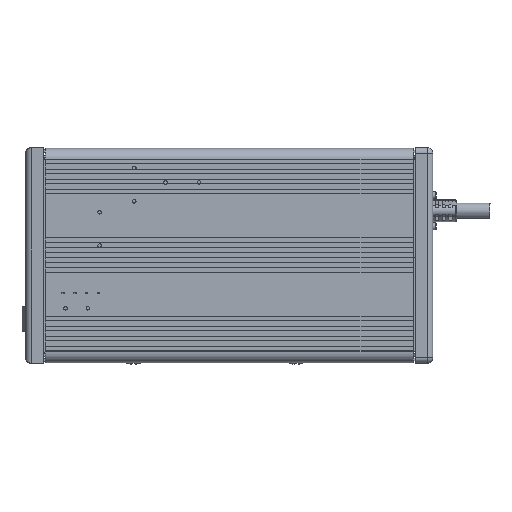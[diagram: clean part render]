
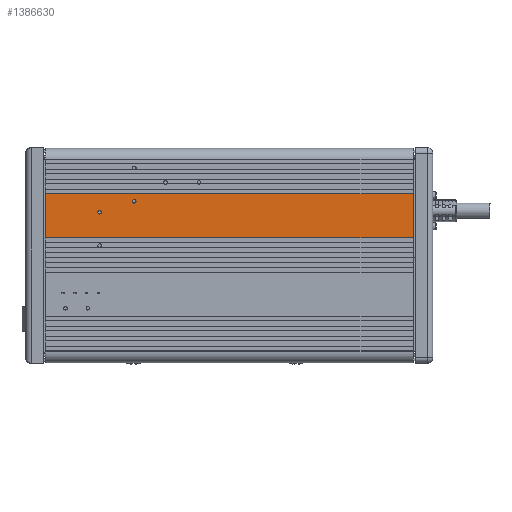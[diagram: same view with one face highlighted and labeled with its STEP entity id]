
A CAD part, front view. The second image highlights one B-rep face of the part: STEP entity #1386630.
In plain terms, the highlighted planar face has unit normal (0, -1, 0) as drawn and (1, 0, 0) by its records, which use the part's own axes.
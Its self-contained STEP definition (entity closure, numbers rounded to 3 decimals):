
#1370860=CARTESIAN_POINT('',(38.193,49.73,0.));
#1370870=VERTEX_POINT('',#1370860);
#1370900=CARTESIAN_POINT('',(38.193,49.73,0.));
#1370910=DIRECTION('',(0.,1.,0.));
#1370920=VECTOR('',#1370910,1.);
#1370930=LINE('',#1370900,#1370920);
#1370940=CARTESIAN_POINT('',(38.193,69.48,0.));
#1370950=VERTEX_POINT('',#1370940);
#1370960=EDGE_CURVE('',#1370870,#1370950,#1370930,.T.);
#1377530=CARTESIAN_POINT('',(38.193,69.48,165.));
#1377540=VERTEX_POINT('',#1377530);
#1377570=CARTESIAN_POINT('',(38.193,69.48,165.));
#1377580=DIRECTION('',(0.,-1.,0.));
#1377590=VECTOR('',#1377580,1.);
#1377600=LINE('',#1377570,#1377590);
#1377610=CARTESIAN_POINT('',(38.193,49.73,165.));
#1377620=VERTEX_POINT('',#1377610);
#1377630=EDGE_CURVE('',#1377540,#1377620,#1377600,.T.);
#1386370=CARTESIAN_POINT('',(38.193,69.48,0.));
#1386380=DIRECTION('',(0.,0.,1.));
#1386390=VECTOR('',#1386380,1.);
#1386400=LINE('',#1386370,#1386390);
#1386410=EDGE_CURVE('',#1370950,#1377540,#1386400,.T.);
#1386470=CARTESIAN_POINT('',(38.193,67.48,0.));
#1386480=DIRECTION('',(1.,-0.,0.));
#1386490=DIRECTION('',(0.,0.,-1.));
#1386500=AXIS2_PLACEMENT_3D('',#1386470,#1386480,#1386490);
#1386510=PLANE('',#1386500);
#1386520=ORIENTED_EDGE('',*,*,#1386410,.T.);
#1386530=ORIENTED_EDGE('',*,*,#1370960,.T.);
#1386540=CARTESIAN_POINT('',(38.193,49.73,0.));
#1386550=DIRECTION('',(0.,0.,1.));
#1386560=VECTOR('',#1386550,1.);
#1386570=LINE('',#1386540,#1386560);
#1386580=EDGE_CURVE('',#1370870,#1377620,#1386570,.T.);
#1386590=ORIENTED_EDGE('',*,*,#1386580,.F.);
#1386600=ORIENTED_EDGE('',*,*,#1377630,.T.);
#1386610=EDGE_LOOP('',(#1386600,#1386590,#1386530,#1386520));
#1386620=FACE_OUTER_BOUND('',#1386610,.T.);
#1386630=ADVANCED_FACE('',(#1386620),#1386510,.T.);
